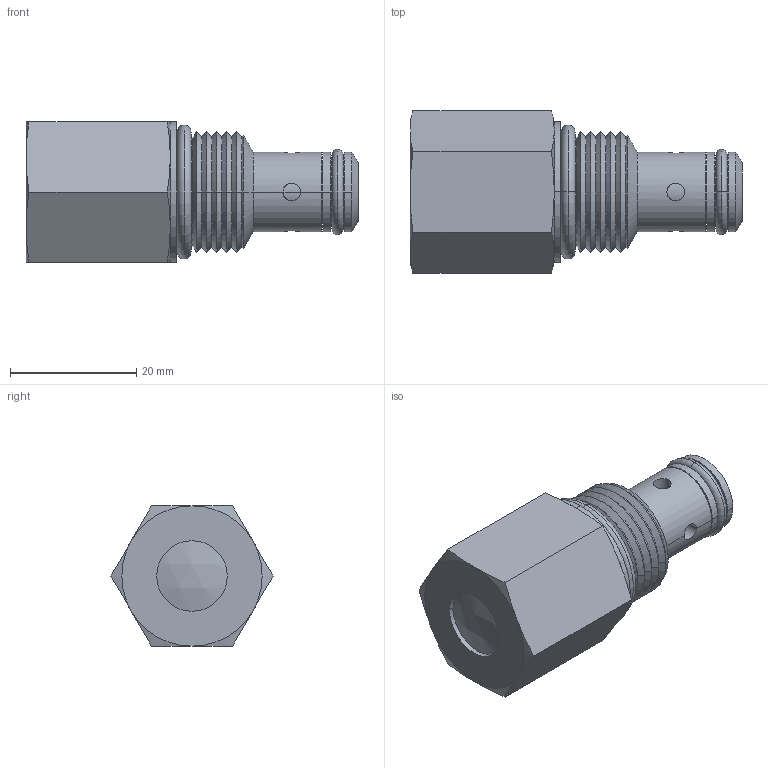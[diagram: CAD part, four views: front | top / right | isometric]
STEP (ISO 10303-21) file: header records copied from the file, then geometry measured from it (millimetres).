
FILE_DESCRIPTION((''),'2;1');
FILE_NAME('U:\Solid model CD\Solid model full\Mechanical\STEP\PBFCA0T-3D Full.stp','2008-07-29T09:50:04',('Dan'),(''),'Autodesk Inventor 9','Autodesk Inventor 9','');
FILE_SCHEMA(('AUTOMOTIVE_DESIGN { 1 0 10303 214 1 1 1 1 }'));
Length unit declared in the file: inch
Products named in the file (6): PBFCA0T-3D Full; PBFCA0T-3D Full1; PBFCA0T-3D Full2; PBFCA0T-3D Full3; PBFCA0T-3D Full4; PBFCA0T-3D Full5
Assembly tree (5 placements, depth 2):
  PBFCA0T-3D Full
    PBFCA0T-3D Full1
    PBFCA0T-3D Full2
    PBFCA0T-3D Full3
    PBFCA0T-3D Full4
    PBFCA0T-3D Full5
Bounding box: 52.58 x 25.66 x 22.23 mm (x, y, z)
Volume: 15189 mm3; surface area: 5474.5 mm2
Topology: 5 solids, 6 shells, 125 faces, 263 edges, 155 vertices
Faces by surface type: cone 42, cylinder 41, torus 20, plane 20, sphere 1, bspline 1
Entity records: 3806 total; most frequent: CARTESIAN_POINT 1002, DIRECTION 607, ORIENTED_EDGE 526, AXIS2_PLACEMENT_3D 265, EDGE_CURVE 263, VERTEX_POINT 155, EDGE_LOOP 136, CIRCLE 130
